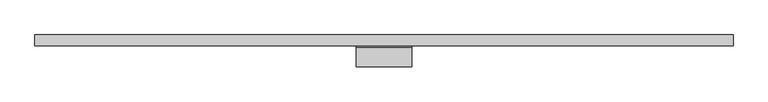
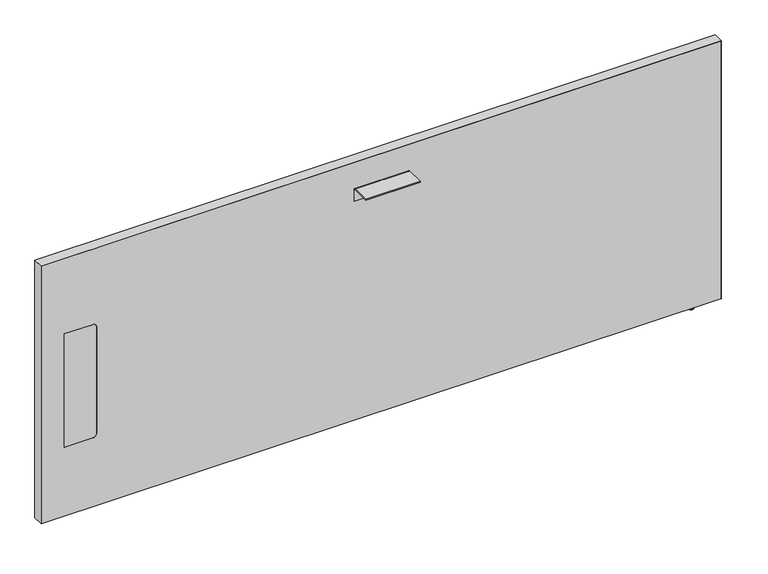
"""IFC4 building model written with IfcOpenShell, lengths in millimetres: furniture geometry, Steelcase - Answer Solution - Boundary Screen - Straight - Single Sided : 30H x 75W."""

from ifc_helpers import new_model, si_unit, point, frame, frame_2d, origin, place, context, project, spatial, polyline, circle_curve, ellipse_curve, trimmed, segment, composite_curve, outline, extrude, source, transform, mapped, element, save
from ifc_brep_helpers import plane_surface, cylinder_surface, revolved_surface, advanced_brep


def furniture_343f2334(model_context):
    return source(origin(), model_context, "Body", "SolidModel", [
        extrude(outline(composite_curve([segment(polyline([(-86.8398151, 696.4680019), (-86.8398151, 698.5), (-34.9450855, 698.5)]), True, "CONTINUOUS"), segment(trimmed(circle_curve(frame_2d((-34.9450855, 693.2447477)), 5.2552523), [point((-34.9450855, 698.5))], [point((-29.6898332, 693.2447477))], False, "CARTESIAN"), True, "CONTINUOUS"), segment(polyline([(-29.6898332, 693.2447477), (-29.6898332, 660.4), (-31.7218162, 660.4), (-31.7218162, 693.0058743)]), True, "CONTINUOUS"), segment(trimmed(circle_curve(frame_2d((-35.1839438, 693.0058743)), 3.4621276), [point((-31.7218162, 693.0058743))], [point((-35.1839438, 696.4680019))], True, "CARTESIAN"), True, "CONTINUOUS"), segment(polyline([(-35.1839438, 696.4680019), (-86.8398151, 696.4680019)]), True, "CONTINUOUS")], self_intersect=False)), frame((229.8191407, 0.0, 0.0), z_axis=(1.0, 0.0, 0.0), x_axis=(0.0, 1.0, 0.0)), (0.0, 0.0, 1.0), 152.4000969),
        advanced_brep(
        [(1181.3286488, -23.7588726, 9.9059849), (1181.3286488, -5.9309607, 9.9059849), (1181.3286488, -14.8449166, 9.9059849), (1181.3286488, -23.7588726, 2.9673238), (1181.3286488, -5.9309607, 2.9673238), (1181.3286488, -22.7915354, 2.9673238), (1181.3286488, -6.8982978, 2.9673238), (1181.3286488, -22.7915354, 1.6569081), (1181.3286488, -6.8982978, 1.6569081), (1181.3286488, -21.1346274, 0.0), (1181.3286488, -8.5552059, 0.0), (1181.3286488, -14.8449166, 0.0)],
        [
            (0, 1, circle_curve(frame((1181.3286488, -14.8449166, 9.9059849), z_axis=(0.0, 0.0, 1.0), x_axis=(0.0, 1.0, 0.0)), 8.913956)),
            (1, 2),
            (2, 0),
            (1, 0, circle_curve(frame((1181.3286488, -14.8449166, 9.9059849), z_axis=(0.0, 0.0, 1.0), x_axis=(0.0, 1.0, 0.0)), 8.913956)),
            (3, 4, circle_curve(frame((1181.3286488, -14.8449166, 2.9673238), z_axis=(0.0, 0.0, 1.0), x_axis=(0.0, 1.0, 0.0)), 8.913956)),
            (4, 1),
            (0, 3),
            (4, 3, circle_curve(frame((1181.3286488, -14.8449166, 2.9673238), z_axis=(0.0, 0.0, 1.0), x_axis=(0.0, 1.0, 0.0)), 8.913956)),
            (5, 6, circle_curve(frame((1181.3286488, -14.8449166, 2.9673238), z_axis=(0.0, 0.0, 1.0), x_axis=(0.0, 1.0, 0.0)), 7.9466188)),
            (6, 4),
            (3, 5),
            (6, 5, circle_curve(frame((1181.3286488, -14.8449166, 2.9673238), z_axis=(0.0, 0.0, 1.0), x_axis=(0.0, 1.0, 0.0)), 7.9466188)),
            (7, 8, circle_curve(frame((1181.3286488, -14.8449166, 1.6569081), z_axis=(0.0, 0.0, 1.0), x_axis=(0.0, 1.0, 0.0)), 7.9466188)),
            (8, 6),
            (5, 7),
            (8, 7, circle_curve(frame((1181.3286488, -14.8449166, 1.6569081), z_axis=(0.0, 0.0, 1.0), x_axis=(0.0, 1.0, 0.0)), 7.9466188)),
            (9, 10, circle_curve(frame((1181.3286488, -14.8449166, 0.0), z_axis=(0.0, 0.0, 1.0), x_axis=(0.0, 1.0, 0.0)), 6.2897107)),
            (10, 8, circle_curve(frame((1181.3286488, -8.5552059, 1.6569081), z_axis=(1.0, 0.0, 0.0), x_axis=(0.0, 1.0, 0.0)), 1.6569081)),
            (7, 9, circle_curve(frame((1181.3286488, -21.1346274, 1.6569081), z_axis=(1.0, 0.0, 0.0), x_axis=(0.0, -1.0, 0.0)), 1.6569081)),
            (10, 9, circle_curve(frame((1181.3286488, -14.8449166, 0.0), z_axis=(0.0, 0.0, 1.0), x_axis=(0.0, 1.0, 0.0)), 6.2897107)),
            (11, 10),
            (9, 11),
        ],
        [
            plane_surface(frame((1181.3286488, -14.8449166, 9.9059849), z_axis=(0.0, 0.0, 1.0), x_axis=(0.0, 1.0, 0.0))),
            cylinder_surface(frame((1181.3286488, -14.8449166, 9.9059849), z_axis=(0.0, 0.0, -1.0), x_axis=(0.0, 1.0, 0.0)), 8.913956),
            plane_surface(frame((1181.3286488, -14.8449166, 2.9673238), z_axis=(0.0, 0.0, -1.0), x_axis=(0.0, 1.0, 0.0))),
            cylinder_surface(frame((1181.3286488, -14.8449166, 9.9059849), z_axis=(0.0, 0.0, -1.0), x_axis=(0.0, 1.0, 0.0)), 7.9466188),
            revolved_surface(trimmed(ellipse_curve(frame((1181.3286488, -8.5552059, 1.6569081), z_axis=(-1.0, 0.0, 0.0), x_axis=(0.0, 1.0, 0.0)), 1.6569081, 1.6569081), [point((1181.3286488, -6.8982978, 1.6569081))], [point((1181.3286488, -8.5552059, 0.0))], True, "CARTESIAN"), (1181.3286488, -14.8449166, 9.9059849), (0.0, 0.0, -1.0)),
            plane_surface(frame((1181.3286488, -14.8449166, 0.0), z_axis=(0.0, 0.0, -1.0), x_axis=(0.0, 1.0, 0.0))),
        ],
        [
            (0, [[1, 2, 3]]),
            (0, [[4, -3, -2]]),
            (1, [[5, 6, -1, 7]]),
            (1, [[8, -7, -4, -6]]),
            (2, [[9, 10, -5, 11]]),
            (2, [[12, -11, -8, -10]]),
            (3, [[13, 14, -9, 15]]),
            (3, [[16, -15, -12, -14]]),
            (4, [[17, 18, -13, 19]]),
            (4, [[20, -19, -16, -18]]),
            (5, [[21, -17, 22]]),
            (5, [[-22, -20, -21]]),
        ],
    ),
        advanced_brep(
        [(1257.4780168, 0.0, 771.942118), (1257.4780168, 0.0, 9.9059849), (-645.4902221, 0.0, 9.9059849), (-645.4902221, 0.0, 771.942118), (1257.4780168, -29.6898332, 771.942118), (-645.4902221, -29.6898332, 771.942118), (-645.4902221, -29.6898332, 9.9059849), (1257.4780168, -29.6898332, 9.9059849), (-501.1463873, -29.6898332, 549.6162029), (-490.9863873, -29.6898332, 539.4562029), (-490.9863873, -29.6898332, 223.9362137), (-501.1463873, -29.6898332, 213.7762137), (-580.800285, -29.6898332, 213.7762137), (-580.800285, -29.6898332, 549.6162029), (-580.800285, -29.0550397, 549.6162029), (-501.1463873, -29.0550397, 549.6162029), (-580.800285, -29.0550397, 213.7762137), (-501.1463873, -29.0550397, 213.7762137), (-490.9863873, -29.0550397, 223.9362137), (-490.9863873, -29.0550397, 539.4562029)],
        [
            (0, 1),
            (1, 2),
            (2, 3),
            (3, 0),
            (4, 5),
            (5, 6),
            (6, 7),
            (7, 4),
            (8, 9, circle_curve(frame((-501.1463873, -29.6898332, 539.4562029), z_axis=(0.0, 1.0, 0.0), x_axis=(0.0, 0.0, 1.0)), 10.16)),
            (9, 10),
            (10, 11, circle_curve(frame((-501.1463873, -29.6898332, 223.9362137), z_axis=(0.0, 1.0, 0.0), x_axis=(0.0, 0.0, 1.0)), 10.16)),
            (11, 12),
            (12, 13),
            (13, 8),
            (0, 4),
            (7, 1),
            (6, 2),
            (5, 3),
            (13, 14),
            (14, 15),
            (15, 8),
            (12, 16),
            (16, 14),
            (11, 17),
            (17, 16),
            (10, 18),
            (18, 17, circle_curve(frame((-501.1463873, -29.0550397, 223.9362137), z_axis=(0.0, 1.0, 0.0), x_axis=(0.0, 0.0, 1.0)), 10.16)),
            (9, 19),
            (19, 18),
            (15, 19, circle_curve(frame((-501.1463873, -29.0550397, 539.4562029), z_axis=(0.0, 1.0, 0.0), x_axis=(0.0, 0.0, 1.0)), 10.16)),
        ],
        [
            plane_surface(frame((1257.4780168, 0.0, 771.942118), z_axis=(0.0, 1.0, 0.0), x_axis=(0.0, 0.0, -1.0))),
            plane_surface(frame((1257.4780168, -29.6898332, 771.942118), z_axis=(0.0, -1.0, 0.0), x_axis=(0.0, 0.0, 1.0))),
            plane_surface(frame((1257.4780168, 0.0, 771.942118), z_axis=(1.0, 0.0, 0.0), x_axis=(0.0, -1.0, 0.0))),
            plane_surface(frame((1257.4780168, 0.0, 9.9059849), z_axis=(0.0, 0.0, -1.0), x_axis=(0.0, -1.0, 0.0))),
            plane_surface(frame((-645.4902221, 0.0, 9.9059849), z_axis=(-1.0, 0.0, 0.0), x_axis=(0.0, -1.0, 0.0))),
            plane_surface(frame((-645.4902221, 0.0, 771.942118), z_axis=(0.0, 0.0, 1.0), x_axis=(0.0, -1.0, 0.0))),
            plane_surface(frame((-501.1463873, 0.0, 549.6162029), z_axis=(0.0, 0.0, -1.0), x_axis=(0.0, -1.0, 0.0))),
            plane_surface(frame((-580.800285, 0.0, 549.6162029), z_axis=(1.0, 0.0, 0.0), x_axis=(0.0, -1.0, 0.0))),
            plane_surface(frame((-580.800285, 0.0, 213.7762137), z_axis=(0.0, 0.0, 1.0), x_axis=(0.0, -1.0, 0.0))),
            revolved_surface(polyline([(-501.1463873, -29.6898332, 234.0962137), (-501.1463873, -29.0550397, 234.0962137)]), (-501.1463873, -29.6898332, 223.9362137), (0.0, -1.0, 0.0)),
            plane_surface(frame((-490.9863873, 0.0, 223.9362137), z_axis=(-1.0, 0.0, 0.0), x_axis=(0.0, -1.0, 0.0))),
            revolved_surface(polyline([(-501.1463873, -29.6898332, 549.6162029), (-501.1463873, -29.0550397, 549.6162029)]), (-501.1463873, -29.6898332, 539.4562029), (0.0, -1.0, 0.0)),
            plane_surface(frame((-490.9863873, -29.0550397, 629.172953), z_axis=(0.0, -1.0, 0.0), x_axis=(0.0, 0.0, 1.0))),
        ],
        [
            (0, [[1, 2, 3, 4]]),
            (1, [[5, 6, 7, 8], [9, 10, 11, 12, 13, 14]]),
            (2, [[-1, 15, -8, 16]]),
            (3, [[-2, -16, -7, 17]]),
            (4, [[-3, -17, -6, 18]]),
            (5, [[-4, -18, -5, -15]]),
            (6, [[-14, 19, 20, 21]]),
            (7, [[-13, 22, 23, -19]]),
            (8, [[-12, 24, 25, -22]]),
            (9, [[-11, 26, 27, -24]]),
            (10, [[-10, 28, 29, -26]]),
            (11, [[-9, -21, 30, -28]]),
            (12, [[-20, -23, -25, -27, -29, -30]]),
        ],
    ),
        extrude(outline(composite_curve([segment(polyline([(549.6162029, -501.1463873), (549.6162029, -580.800285), (213.7762137, -580.800285), (213.7762137, -501.1463873)]), True, "CONTINUOUS"), segment(trimmed(circle_curve(frame_2d((223.9362137, -501.1463873)), 10.16), [point((213.7762137, -501.1463873))], [point((223.9362137, -490.9863873))], False, "CARTESIAN"), True, "CONTINUOUS"), segment(polyline([(223.9362137, -490.9863873), (539.4562029, -490.9863873)]), True, "CONTINUOUS"), segment(trimmed(circle_curve(frame_2d((539.4562029, -501.1463873)), 10.16), [point((539.4562029, -490.9863873))], [point((549.6162029, -501.1463873))], False, "CARTESIAN"), True, "CONTINUOUS")], self_intersect=False)), frame((0.0, -29.6898332, 0.0), z_axis=(0.0, 1.0, 0.0), x_axis=(0.0, 0.0, 1.0)), (0.0, 0.0, 1.0), 0.6347935),
        extrude(outline(polyline([(772.922, 1258.5191891), (772.922, -646.4808109), (9.9059849, -646.4808109), (9.9059849, -645.4902221), (771.942118, -645.4902221), (771.942118, 1257.4780168), (9.9059849, 1257.4780168), (9.9059849, 1258.5191891), (772.922, 1258.5191891)])), frame((0.0, -29.6898332, 0.0), z_axis=(0.0, 1.0, 0.0), x_axis=(0.0, 0.0, 1.0)), (0.0, 0.0, 1.0), 29.6898332),
    ])


if __name__ == "__main__":
    model = new_model("IFC4")
    model_context = context("Model", 3, world=origin())
    ifc_project = project(units=[si_unit("LENGTHUNIT", "METRE", prefix="MILLI")], contexts=[model_context])
    site = spatial("IfcSite", under=ifc_project)
    building = spatial("IfcBuilding", under=site)
    placement = place(None, origin())
    furniture_shape = furniture_343f2334(model_context)
    element("IfcFurniture", 1, ObjectType="Steelcase - Answer Solution - Boundary Screen - Straight - Single Sided : 30H x 75W", at=placement, inside=building, context=model_context, shape_type="MappedRepresentation", body=[
        mapped(furniture_shape, transform((0.0, 0.0, 0.0), x_axis=(1.0, 0.0, 0.0), y_axis=(0.0, 1.0, 0.0), z_axis=(0.0, 0.0, 1.0))),
    ])
    save(model, "model.ifc")
